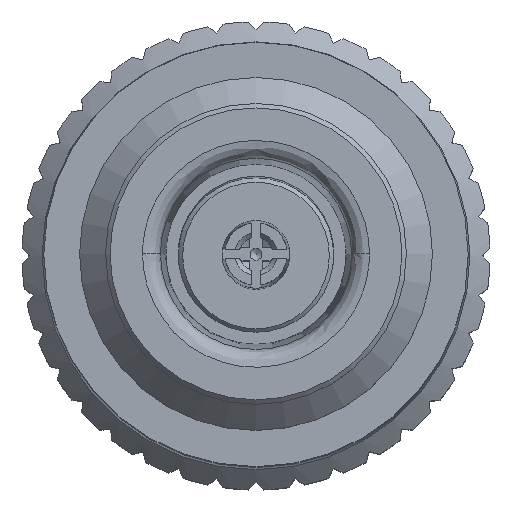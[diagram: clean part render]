
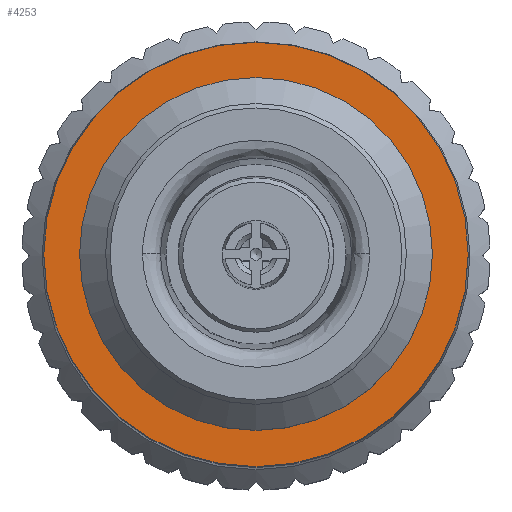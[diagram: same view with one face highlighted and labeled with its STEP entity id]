
A CAD part, top view. The second image highlights one B-rep face of the part: STEP entity #4253.
In plain terms, the highlighted planar face has unit normal (0, 0, 1).
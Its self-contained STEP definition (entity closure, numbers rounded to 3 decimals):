
#1945=ORIENTED_EDGE('',*,*,#2563,.F.);
#1946=ORIENTED_EDGE('',*,*,#2564,.T.);
#2563=EDGE_CURVE('',#2997,#2997,#3210,.T.);
#2564=EDGE_CURVE('',#2998,#2998,#3211,.T.);
#2997=VERTEX_POINT('',#7990);
#2998=VERTEX_POINT('',#7993);
#3210=CIRCLE('',#4740,6.75);
#3211=CIRCLE('',#4742,9.525);
#3539=EDGE_LOOP('',(#1945));
#3540=EDGE_LOOP('',(#1946));
#3872=FACE_BOUND('',#3539,.T.);
#3873=FACE_BOUND('',#3540,.T.);
#3996=PLANE('',#4741);
#4253=ADVANCED_FACE('',(#3872,#3873),#3996,.F.);
#4740=AXIS2_PLACEMENT_3D('',#7989,#5850,#5851);
#4741=AXIS2_PLACEMENT_3D('',#7991,#5852,#5853);
#4742=AXIS2_PLACEMENT_3D('',#7992,#5854,#5855);
#5850=DIRECTION('',(0.,0.,1.));
#5851=DIRECTION('',(1.,0.,0.));
#5852=DIRECTION('',(0.,0.,-1.));
#5853=DIRECTION('',(-1.,0.,0.));
#5854=DIRECTION('',(0.,0.,1.));
#5855=DIRECTION('',(1.,0.,0.));
#7989=CARTESIAN_POINT('',(0.,0.,15.535));
#7990=CARTESIAN_POINT('',(6.75,0.,15.535));
#7991=CARTESIAN_POINT('',(6.75,0.,15.535));
#7992=CARTESIAN_POINT('',(0.,0.,15.535));
#7993=CARTESIAN_POINT('',(9.525,0.,15.535));
